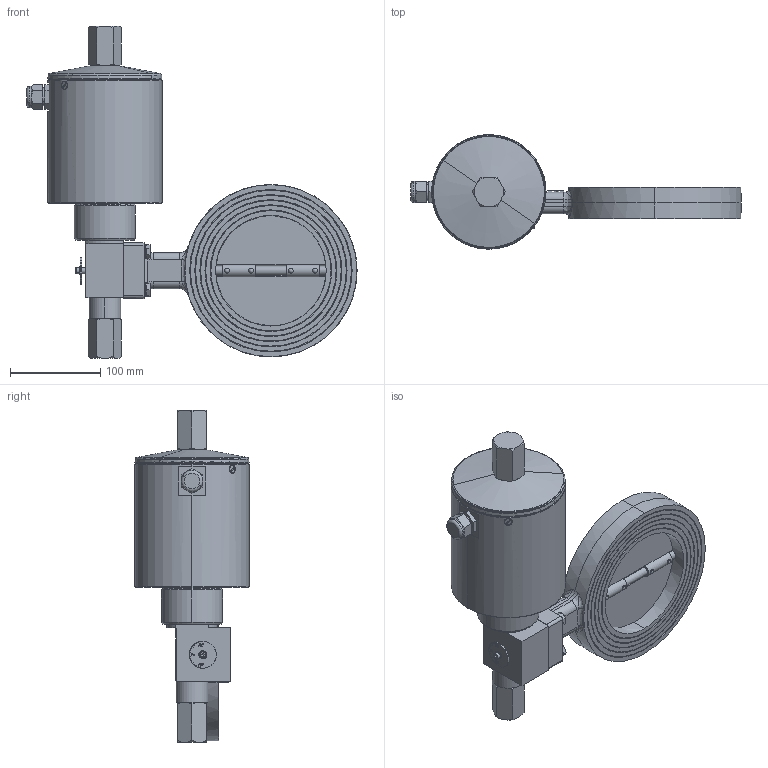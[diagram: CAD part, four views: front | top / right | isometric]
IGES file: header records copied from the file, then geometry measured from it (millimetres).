
Global section: file name: No Iges File Name specified; native system: AutoDesk Inventor R12.0; preprocessor: AutoDesk Inventor Iges Exporter R12.0; date: 20100526.085422; units: millimetre
Bounding box: 367.05 x 127 x 368.88 mm (x, y, z)
Volume: 3041332.3 mm3; surface area: 241266.1 mm2
Topology: 1 solids, 1 shells, 712 faces, 1847 edges, 1175 vertices
Faces by surface type: plane 392, cylinder 93, bspline 88, cone 82, revolution 37, torus 12, sphere 8
